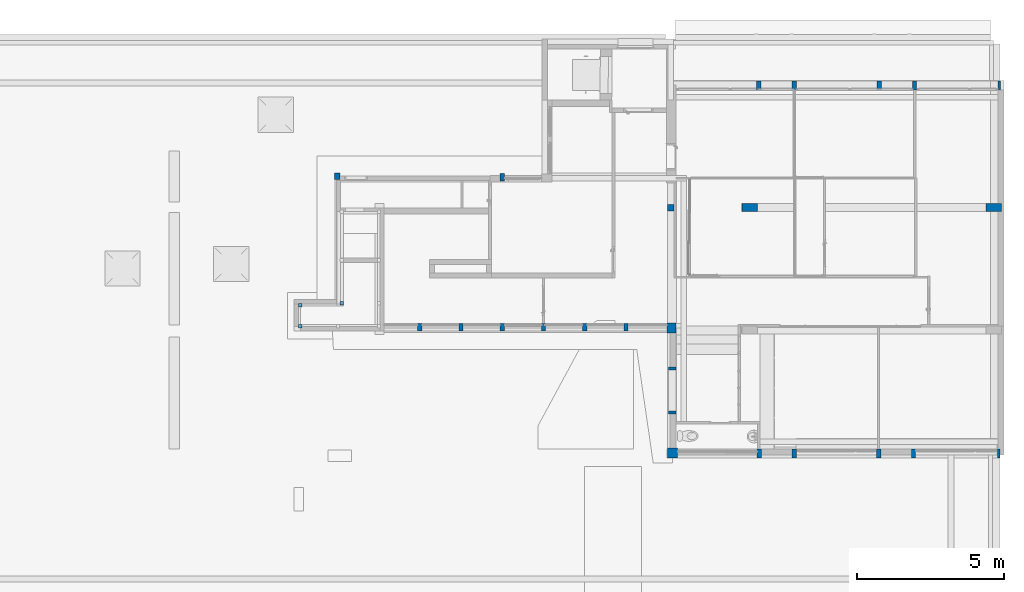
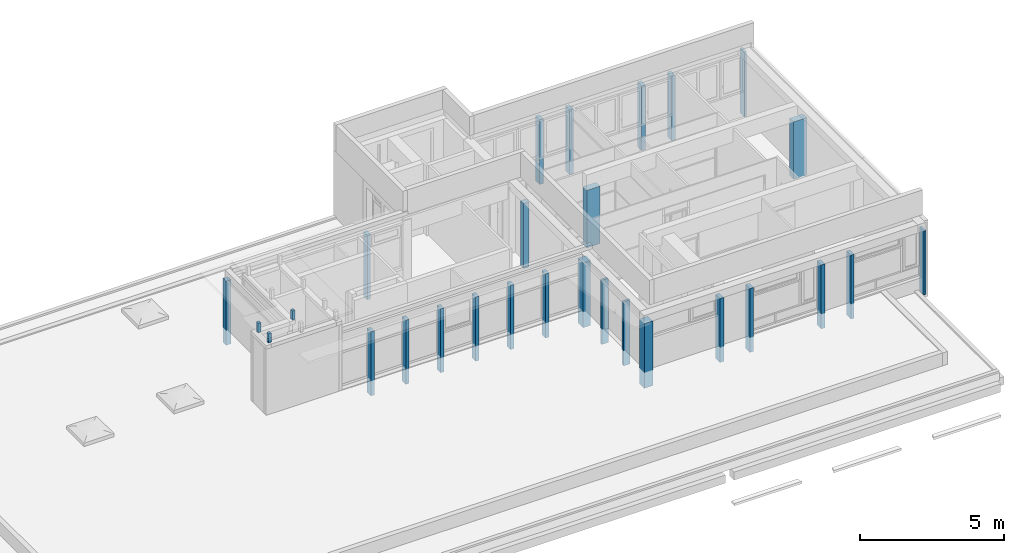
# One storey, part 1 of 49: 28 columns.
"""IFC4 building model written with IfcOpenShell, lengths in metres."""

import ifcopenshell
import ifcopenshell.guid

model = None  # the IFC model being written
_history = None  # IfcOwnerHistory: only IFC2X3 demands one
_inside = {}  # id of a spatial element -> (the spatial element, [elements in it])
_under = {}  # id of a project, library or spatial element -> (it, [spatial elements below it])
_declared = {}  # id of a project -> (the project, [libraries it declares])
_typed = {}  # id of a type object -> (the type object, [elements of that type])
_made_of = {}  # id of a material, layer set ... -> (it, [elements and type objects made of it])


def new_model(schema):
    """Start an empty IFC model of exactly this schema.

    Asked for "IFC4X3", IfcOpenShell would pick the latest addendum, in which some entities
    have other attributes; the version numbers below select the first issue.
    IFC2X3 requires an IfcOwnerHistory on every rooted entity: one is made here for all.
    """
    global model, _history
    if schema == "IFC4X3":
        model = ifcopenshell.file(schema_version=(4, 3, 0, 0))
    else:
        model = ifcopenshell.file(schema=schema)
    _inside.clear()
    _under.clear()
    _declared.clear()
    _typed.clear()
    _made_of.clear()
    _history = None
    if model.schema == "IFC2X3":
        org = make("IfcOrganization", Name="unknown")
        user = make(
            "IfcPersonAndOrganization",
            ThePerson=make("IfcPerson", FamilyName="unknown"),
            TheOrganization=org,
        )
        app = make(
            "IfcApplication",
            ApplicationDeveloper=org,
            Version="unknown",
            ApplicationFullName="unknown",
            ApplicationIdentifier="unknown",
        )
        _history = make(
            "IfcOwnerHistory",
            OwningUser=user,
            OwningApplication=app,
            ChangeAction="ADDED",
            CreationDate=0,
        )
    return model


def make(cls, **values):
    """One entity of the class cls with the attributes given. An attribute that is None is left unset."""
    return model.create_entity(
        cls, **{name: value for name, value in values.items() if value is not None}
    )


def entity(cls, *values):
    """Any entity or typed value of the class cls, its attributes in the order of the schema. None: left unset."""
    e = model.create_entity(cls)
    for i, value in enumerate(values):
        if value is not None:
            e[i] = value
    return e


def rooted(cls, **values):
    """An entity with a GlobalId (a new one), such as an element, a storey or a relation."""
    return make(cls, GlobalId=ifcopenshell.guid.new(), OwnerHistory=_history, **values)


def si_unit(unit_type, name, prefix=None):
    """IfcSIUnit, for example si_unit("LENGTHUNIT", "METRE", prefix="MILLI")."""
    return make("IfcSIUnit", UnitType=unit_type, Prefix=prefix, Name=name)


def converted_unit(unit_type, name, factor, base, dimensions=None, offset=None):
    """IfcConversionBasedUnit, such as the inch: factor (a typed value) times the base unit."""
    return make(
        "IfcConversionBasedUnit"
        if offset is None
        else "IfcConversionBasedUnitWithOffset",
        ConversionOffset=offset,
        Dimensions=None
        if dimensions is None
        else entity("IfcDimensionalExponents", *dimensions),
        UnitType=unit_type,
        Name=name,
        ConversionFactor=make(
            "IfcMeasureWithUnit", ValueComponent=factor, UnitComponent=base
        ),
    )


def derived_unit(unit_type, elements):
    """IfcDerivedUnit: a product of units, each with its exponent."""
    return make(
        "IfcDerivedUnit",
        Elements=[
            make("IfcDerivedUnitElement", Unit=unit, Exponent=power)
            for unit, power in elements
        ],
        UnitType=unit_type,
    )


def assignment(units):
    """IfcUnitAssignment: the units of a project."""
    return None if units is None else make("IfcUnitAssignment", Units=units)


def point(xyz):
    """IfcCartesianPoint."""
    return None if xyz is None else make("IfcCartesianPoint", Coordinates=xyz)


def direction(xyz):
    """IfcDirection."""
    return None if xyz is None else make("IfcDirection", DirectionRatios=xyz)


def frame(location, z_axis=None, x_axis=None):
    """IfcAxis2Placement3D, a coordinate frame: its origin and axes. An axis left out is left unset."""
    return make(
        "IfcAxis2Placement3D",
        Location=point(location),
        Axis=direction(z_axis),
        RefDirection=direction(x_axis),
    )


def origin():
    """The frame at (0, 0, 0) with its axes left unset."""
    return frame((0.0, 0.0, 0.0))


def place(relative_to, where):
    """IfcLocalPlacement: puts the frame where relative to a parent placement (None: the world)."""
    return make(
        "IfcLocalPlacement", PlacementRelTo=relative_to, RelativePlacement=where
    )


def context(
    kind, dimensions, precision=None, world=None, true_north=None, identifier=None
):
    """IfcGeometricRepresentationContext, for example the 3D "Model" context."""
    return make(
        "IfcGeometricRepresentationContext",
        ContextIdentifier=identifier,
        ContextType=kind,
        CoordinateSpaceDimension=dimensions,
        Precision=precision,
        WorldCoordinateSystem=world,
        TrueNorth=true_north,
    )


def subcontext(parent, identifier, kind, view, scale=None):
    """IfcGeometricRepresentationSubContext, for example "Body" below "Model"."""
    return make(
        "IfcGeometricRepresentationSubContext",
        ContextIdentifier=identifier,
        ContextType=kind,
        ParentContext=parent,
        TargetScale=scale,
        TargetView=view,
    )


def project(units=None, contexts=None):
    """IfcProject with its units and contexts."""
    return rooted(
        "IfcProject",
        Name="project",
        RepresentationContexts=contexts,
        UnitsInContext=assignment(units),
    )


def spatial(cls, under=None, at=None, **own):
    """A site, building, storey or space (cls), placed at a placement, below another one or the project."""
    s = rooted(cls, ObjectPlacement=at, **own)
    if under is not None:
        _under.setdefault(under.id(), (under, []))[1].append(s)
    return s


def point_list(points):
    """IfcCartesianPointList2D or 3D."""
    cls = (
        "IfcCartesianPointList2D" if len(points[0]) == 2 else "IfcCartesianPointList3D"
    )
    return make(cls, CoordList=points)


def indexed_curve(points, segments=None, self_intersect=None):
    """IfcIndexedPolyCurve: lines and arcs through numbered points (the first is 1)."""
    return make(
        "IfcIndexedPolyCurve",
        Points=point_list(points),
        Segments=segments,
        SelfIntersect=self_intersect,
    )


def outline(outer, holes=None, kind="AREA"):
    """IfcArbitraryClosedProfileDef: a profile drawn as a closed curve; with holes, ...WithVoids."""
    if holes is None:
        return make("IfcArbitraryClosedProfileDef", ProfileType=kind, OuterCurve=outer)
    return make(
        "IfcArbitraryProfileDefWithVoids",
        ProfileType=kind,
        OuterCurve=outer,
        InnerCurves=holes,
    )


def extrude(swept, where, along, depth):
    """IfcExtrudedAreaSolid: the profile swept, set in the frame where, extruded along a direction by depth."""
    return make(
        "IfcExtrudedAreaSolid",
        SweptArea=swept,
        Position=where,
        ExtrudedDirection=direction(along),
        Depth=depth,
    )


def shape(context_of_items, identifier, shape_type, items):
    """IfcShapeRepresentation: the items that make up one representation, for example the "Body"."""
    return make(
        "IfcShapeRepresentation",
        ContextOfItems=context_of_items,
        RepresentationIdentifier=identifier,
        RepresentationType=shape_type,
        Items=items,
    )


def source(mapping_origin, context_of_items, identifier, shape_type, items):
    """IfcRepresentationMap: a shape defined once, which mapped items show again and again."""
    return make(
        "IfcRepresentationMap",
        MappingOrigin=mapping_origin,
        MappedRepresentation=shape(context_of_items, identifier, shape_type, items),
    )


def transform(
    local_origin,
    x_axis=None,
    y_axis=None,
    z_axis=None,
    scale=None,
    scale2=None,
    scale3=None,
    uniform=True,
):
    """IfcCartesianTransformationOperator3D, or its non-uniform kind. x_axis, y_axis, z_axis: its Axis1, 2, 3."""
    if uniform:
        return make(
            "IfcCartesianTransformationOperator3D",
            Axis1=direction(x_axis),
            Axis2=direction(y_axis),
            LocalOrigin=point(local_origin),
            Scale=scale,
            Axis3=direction(z_axis),
        )
    return make(
        "IfcCartesianTransformationOperator3DnonUniform",
        Axis1=direction(x_axis),
        Axis2=direction(y_axis),
        LocalOrigin=point(local_origin),
        Scale=scale,
        Axis3=direction(z_axis),
        Scale2=scale2,
        Scale3=scale3,
    )


def mapped(mapping_source, mapping_target):
    """IfcMappedItem: shows the shape of a source again, moved by a transform."""
    return make(
        "IfcMappedItem", MappingSource=mapping_source, MappingTarget=mapping_target
    )


def material(Name=None, Category=None):
    """IfcMaterial."""
    return make("IfcMaterial", Name=Name, Category=Category)


def material_list(materials):
    """IfcMaterialList."""
    return make("IfcMaterialList", Materials=materials)


def made_of(thing, what):
    """Note that an element or type object is made of a material, layer set ...; save() writes the relation."""
    if what is not None:
        _made_of.setdefault(what.id(), (what, []))[1].append(thing)
    return thing


def type_object(cls, material=None, **own):
    """A type object (cls), such as IfcWallType, which elements share."""
    return made_of(rooted(cls, **own), material)


def type_shapes(of_type, sources):
    """Give a type object the sources (RepresentationMaps) that its elements show as mapped items."""
    of_type.RepresentationMaps = sources


def element(
    cls,
    number,
    at=None,
    inside=None,
    cuts=None,
    type_object=None,
    material=None,
    context=None,
    identifier="Body",
    shape_type=None,
    held_by="IfcProductDefinitionShape",
    body=None,
    shapes=None,
    **own,
):
    """One element of the class cls, such as IfcWall. Its Tag is "e" and its number.

    at: its placement. inside: the storey or other place that contains it. cuts: it is an
    opening in that element (IfcRelVoidsElement). A single representation is given by context,
    identifier, shape_type and body (its items); several are given by shapes. held_by: the class
    of the entity that holds the representations. save() writes the other relations.
    """
    e = rooted(cls, Tag="e%d" % number, ObjectPlacement=at, **own)
    if body is not None:
        shapes = [shape(context, identifier, shape_type, body)]
    if shapes is not None:
        e.Representation = make(held_by, Representations=shapes)
    if inside is not None:
        _inside.setdefault(inside.id(), (inside, []))[1].append(e)
    if cuts is not None:
        rooted(
            "IfcRelVoidsElement", RelatingBuildingElement=cuts, RelatedOpeningElement=e
        )
    if type_object is not None:
        _typed.setdefault(type_object.id(), (type_object, []))[1].append(e)
    return made_of(e, material)


def aggregate(whole, parts):
    """IfcRelAggregates: a whole, such as a stair, and the parts it consists of."""
    return rooted("IfcRelAggregates", RelatingObject=whole, RelatedObjects=parts)


def save(model, path):
    """Write the relations noted so far, then the file.

    IfcRelAggregates (storeys below a building ...), IfcRelContainedInSpatialStructure (elements
    in a storey), IfcRelDefinesByType, IfcRelAssociatesMaterial and IfcRelDeclares: one each for
    every whole, place, type object, material and project.
    """
    for whole, parts in _under.values():
        aggregate(whole, parts)
    for where, things in _inside.values():
        rooted(
            "IfcRelContainedInSpatialStructure",
            RelatedElements=things,
            RelatingStructure=where,
        )
    for kind, things in _typed.values():
        rooted("IfcRelDefinesByType", RelatedObjects=things, RelatingType=kind)
    for what, things in _made_of.values():
        rooted("IfcRelAssociatesMaterial", RelatedObjects=things, RelatingMaterial=what)
    for by, libraries in _declared.values():
        rooted("IfcRelDeclares", RelatingContext=by, RelatedDefinitions=libraries)
    model.write(path)


model = new_model("IFC4")

# Units and contexts
model_context = context("Model", 3, precision=1e-05, world=origin(), true_north=direction((6.12303176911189e-17, 1.0)))
body_context = subcontext(model_context, "Body", "Model", "MODEL_VIEW")
ifc_project = project(units=[si_unit("LENGTHUNIT", "METRE"), si_unit("AREAUNIT", "SQUARE_METRE"), si_unit("VOLUMEUNIT", "CUBIC_METRE"), converted_unit("PLANEANGLEUNIT", "DEGREE", entity("IfcRatioMeasure", 0.0174532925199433), si_unit("PLANEANGLEUNIT", "RADIAN"), dimensions=[0, 0, 0, 0, 0, 0, 0]), si_unit("MASSUNIT", "GRAM", prefix="KILO"), derived_unit("MASSDENSITYUNIT", [(si_unit("MASSUNIT", "GRAM", prefix="KILO"), 1), (si_unit("LENGTHUNIT", "METRE"), -3)]), derived_unit("MOMENTOFINERTIAUNIT", [(si_unit("LENGTHUNIT", "METRE"), 4)]), si_unit("TIMEUNIT", "SECOND"), si_unit("FREQUENCYUNIT", "HERTZ"), si_unit("THERMODYNAMICTEMPERATUREUNIT", "DEGREE_CELSIUS"), derived_unit("THERMALTRANSMITTANCEUNIT", [(si_unit("MASSUNIT", "GRAM", prefix="KILO"), 1), (si_unit("THERMODYNAMICTEMPERATUREUNIT", "KELVIN"), -1), (si_unit("TIMEUNIT", "SECOND"), -3)]), derived_unit("VOLUMETRICFLOWRATEUNIT", [(si_unit("LENGTHUNIT", "METRE"), 3), (si_unit("TIMEUNIT", "SECOND"), -1)]), si_unit("ELECTRICCURRENTUNIT", "AMPERE"), si_unit("ELECTRICVOLTAGEUNIT", "VOLT"), si_unit("POWERUNIT", "WATT"), si_unit("FORCEUNIT", "NEWTON", prefix="KILO"), si_unit("ILLUMINANCEUNIT", "LUX"), si_unit("LUMINOUSFLUXUNIT", "LUMEN"), si_unit("LUMINOUSINTENSITYUNIT", "CANDELA"), derived_unit("USERDEFINED", [(si_unit("MASSUNIT", "GRAM", prefix="KILO"), -1), (si_unit("LENGTHUNIT", "METRE"), -2), (si_unit("TIMEUNIT", "SECOND"), 3), (si_unit("LUMINOUSFLUXUNIT", "LUMEN"), 1)]), derived_unit("LINEARVELOCITYUNIT", [(si_unit("LENGTHUNIT", "METRE"), 1), (si_unit("TIMEUNIT", "SECOND"), -1)]), si_unit("PRESSUREUNIT", "PASCAL"), derived_unit("USERDEFINED", [(si_unit("LENGTHUNIT", "METRE"), -2), (si_unit("MASSUNIT", "GRAM", prefix="KILO"), 1), (si_unit("TIMEUNIT", "SECOND"), -2)]), derived_unit("LINEARFORCEUNIT", [(si_unit("MASSUNIT", "GRAM", prefix="KILO"), 1), (si_unit("LENGTHUNIT", "METRE"), 1), (si_unit("TIMEUNIT", "SECOND"), -2), (si_unit("LENGTHUNIT", "METRE"), -1)]), derived_unit("PLANARFORCEUNIT", [(si_unit("MASSUNIT", "GRAM", prefix="KILO"), 1), (si_unit("LENGTHUNIT", "METRE"), 1), (si_unit("TIMEUNIT", "SECOND"), -2), (si_unit("LENGTHUNIT", "METRE"), -2)])], contexts=[model_context])

# Site, building, storey
site_placement = place(None, origin())
site = spatial("IfcSite", under=ifc_project, at=site_placement, Name="Default", CompositionType="ELEMENT")
building_placement = place(site_placement, origin())
building = spatial("IfcBuilding", under=site, at=building_placement, Name="HOTEL CONSULAIRE BOULOGNE SUR MER", CompositionType="ELEMENT")
storey_placement = place(building_placement, frame((0.0, 0.0, 6.81974152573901)))
storey = spatial("IfcBuildingStorey", under=building, at=storey_placement, Name="Niveau 2", CompositionType="ELEMENT", Elevation=6.81974152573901)

# Columns
ifc_material_1 = material(Name="Finition Peinture - Blanc satiné", Category="Peinture")
ifc_material_2 = material(Name="<Unnamed>")
ifc_material_list_1 = material_list([ifc_material_2, ifc_material_1])
column_type_1 = type_object("IfcColumnType", Name="Poteaux porteurs 76:Poteaux porteurs 1", PredefinedType="COLUMN", material=ifc_material_list_1)
shared_shape_1 = source(origin(), body_context, "Body", "SweptSolid", [
    extrude(outline(indexed_curve([(-0.150000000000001, -0.0750000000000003), (0.149999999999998, -0.0750000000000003), (0.149999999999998, 0.0750000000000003), (-0.150000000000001, 0.0750000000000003), (-0.150000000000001, -0.0750000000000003)], self_intersect=False)), frame((14.4744341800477, -11.4864237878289, 6.78474152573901), z_axis=(0.0, 0.0, 1.0), x_axis=(0.0, -1.0, 0.0)), (0.0, 0.0, 1.0), 2.7469999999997),
])
type_shapes(column_type_1, [shared_shape_1])
column_1_placement = place(storey_placement, frame((0.0, 0.0, -6.81974152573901)))
element("IfcColumn", 1, at=column_1_placement, inside=storey, type_object=column_type_1, material=ifc_material_1, Name="Poteaux porteurs 76:Poteaux porteurs 1", ObjectType="Poteaux porteurs 76:Poteaux porteurs 1", PredefinedType="COLUMN", context=body_context, shape_type="MappedRepresentation", body=[
    mapped(shared_shape_1, transform((0.0, 0.0, 0.0), scale=1.0)),
])
ifc_material_list_2 = material_list([ifc_material_1, ifc_material_2])
column_type_2 = type_object("IfcColumnType", Name="Poteaux porteurs 73:Poteaux porteurs 1", PredefinedType="COLUMN", material=ifc_material_list_2)
shared_shape_2 = source(origin(), body_context, "Body", "SweptSolid", [
    extrude(outline(indexed_curve([(-0.150000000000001, -0.0750000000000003), (0.149999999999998, -0.0750000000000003), (0.149999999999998, 0.0750000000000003), (-0.150000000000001, 0.0750000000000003), (-0.150000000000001, -0.0750000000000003)], self_intersect=False)), frame((14.4744341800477, -11.4864237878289, 6.78474152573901), z_axis=(0.0, 0.0, 1.0), x_axis=(0.0, -1.0, 0.0)), (0.0, 0.0, 1.0), 2.7469999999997),
])
type_shapes(column_type_2, [shared_shape_2])
column_2_placement = place(storey_placement, frame((1.2, 0.0, -6.81974152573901)))
element("IfcColumn", 2, at=column_2_placement, inside=storey, type_object=column_type_2, material=ifc_material_1, Name="Poteaux porteurs 73:Poteaux porteurs 1", ObjectType="Poteaux porteurs 73:Poteaux porteurs 1", PredefinedType="COLUMN", context=body_context, shape_type="MappedRepresentation", body=[
    mapped(shared_shape_2, transform((0.0, 0.0, 0.0), scale=1.0)),
])
ifc_material_list_3 = material_list([ifc_material_2, ifc_material_1])
column_type_3 = type_object("IfcColumnType", Name="Poteaux porteurs 74:Poteaux porteurs 1", PredefinedType="COLUMN", material=ifc_material_list_3)
shared_shape_3 = source(origin(), body_context, "Body", "SweptSolid", [
    extrude(outline(indexed_curve([(-0.150000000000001, -0.0750000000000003), (0.149999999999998, -0.0750000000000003), (0.149999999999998, 0.0750000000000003), (-0.150000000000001, 0.0750000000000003), (-0.150000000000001, -0.0750000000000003)], self_intersect=False)), frame((14.4744341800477, -11.4864237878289, 6.78474152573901), z_axis=(0.0, 0.0, 1.0), x_axis=(0.0, -1.0, 0.0)), (0.0, 0.0, 1.0), 2.7469999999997),
])
type_shapes(column_type_3, [shared_shape_3])
column_3_placement = place(storey_placement, frame((4.086, 0.0, -6.81974152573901)))
element("IfcColumn", 3, at=column_3_placement, inside=storey, type_object=column_type_3, material=ifc_material_1, Name="Poteaux porteurs 74:Poteaux porteurs 1", ObjectType="Poteaux porteurs 74:Poteaux porteurs 1", PredefinedType="COLUMN", context=body_context, shape_type="MappedRepresentation", body=[
    mapped(shared_shape_3, transform((0.0, 0.0, 0.0), scale=1.0)),
])
ifc_material_list_4 = material_list([ifc_material_1, ifc_material_2])
column_type_4 = type_object("IfcColumnType", Name="Poteaux porteurs 75:Poteaux porteurs 1", PredefinedType="COLUMN", material=ifc_material_list_4)
shared_shape_4 = source(origin(), body_context, "Body", "SweptSolid", [
    extrude(outline(indexed_curve([(-0.150000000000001, -0.0750000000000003), (0.149999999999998, -0.0750000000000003), (0.149999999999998, 0.0750000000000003), (-0.150000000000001, 0.0750000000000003), (-0.150000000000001, -0.0750000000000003)], self_intersect=False)), frame((14.4744341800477, -11.4864237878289, 6.78474152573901), z_axis=(0.0, 0.0, 1.0), x_axis=(0.0, -1.0, 0.0)), (0.0, 0.0, 1.0), 2.7469999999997),
])
type_shapes(column_type_4, [shared_shape_4])
column_4_placement = place(storey_placement, frame((5.286, 0.0, -6.81974152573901)))
element("IfcColumn", 4, at=column_4_placement, inside=storey, type_object=column_type_4, material=ifc_material_1, Name="Poteaux porteurs 75:Poteaux porteurs 1", ObjectType="Poteaux porteurs 75:Poteaux porteurs 1", PredefinedType="COLUMN", context=body_context, shape_type="MappedRepresentation", body=[
    mapped(shared_shape_4, transform((0.0, 0.0, 0.0), scale=1.0)),
])
ifc_material_3 = material(Name="Maçonnerie - Béton coulé sur place", Category="Béton")
ifc_material_list_5 = material_list([ifc_material_3, ifc_material_1])
column_type_5 = type_object("IfcColumnType", Name="Poteau béton - Rectangulaire:340x340", PredefinedType="COLUMN", material=ifc_material_list_5)
shared_shape_5 = source(origin(), body_context, "Body", "SweptSolid", [
    extrude(outline(indexed_curve([(-0.17, -0.17), (0.17, -0.17), (0.17, 0.17), (-0.17, 0.17), (-0.17, -0.17)], self_intersect=False)), frame((11.5469086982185, -23.958909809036, 6.78474152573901), z_axis=(0.0, 0.0, 1.0), x_axis=(0.0, -1.0, 0.0)), (0.0, 0.0, 1.0), 2.747),
])
type_shapes(column_type_5, [shared_shape_5])
column_5_placement = place(storey_placement, frame((0.0, 0.0, -6.81974152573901)))
element("IfcColumn", 5, at=column_5_placement, inside=storey, type_object=column_type_5, material=ifc_material_1, Name="Poteau béton - Rectangulaire:340x340", ObjectType="Poteau béton - Rectangulaire:340x340", PredefinedType="COLUMN", context=body_context, shape_type="MappedRepresentation", body=[
    mapped(shared_shape_5, transform((0.0, 0.0, 0.0), scale=1.0)),
])
ifc_material_list_6 = material_list([ifc_material_2, ifc_material_1])
column_type_6 = type_object("IfcColumnType", Name="Poteaux porteurs 77:Poteaux porteurs 1", PredefinedType="COLUMN", material=ifc_material_list_6)
shared_shape_6 = source(origin(), body_context, "Body", "SweptSolid", [
    extrude(outline(indexed_curve([(-0.150000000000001, -0.0750000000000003), (0.150000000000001, -0.0750000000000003), (0.149999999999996, 0.0750000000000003), (-0.150000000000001, 0.0750000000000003), (-0.150000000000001, -0.0750000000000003)], self_intersect=False)), frame((14.4870413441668, -23.9771007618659, 6.8197415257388), z_axis=(0.0, 0.0, 1.0), x_axis=(0.0, -1.0, 0.0)), (0.0, 0.0, 1.0), 2.7119999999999),
])
type_shapes(column_type_6, [shared_shape_6])
column_6_placement = place(storey_placement, frame((0.0, 0.0, -6.81974152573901)))
element("IfcColumn", 6, at=column_6_placement, inside=storey, type_object=column_type_6, material=ifc_material_1, Name="Poteaux porteurs 77:Poteaux porteurs 1", ObjectType="Poteaux porteurs 77:Poteaux porteurs 1", PredefinedType="COLUMN", context=body_context, shape_type="MappedRepresentation", body=[
    mapped(shared_shape_6, transform((0.0, 0.0, 0.0), scale=1.0)),
])
ifc_material_list_7 = material_list([ifc_material_2, ifc_material_1])
column_type_7 = type_object("IfcColumnType", Name="Poteaux porteurs 78:Poteaux porteurs 1", PredefinedType="COLUMN", material=ifc_material_list_7)
shared_shape_7 = source(origin(), body_context, "Body", "SweptSolid", [
    extrude(outline(indexed_curve([(-0.150000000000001, -0.0750000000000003), (0.150000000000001, -0.0750000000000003), (0.149999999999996, 0.0750000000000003), (-0.150000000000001, 0.0750000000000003), (-0.150000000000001, -0.0750000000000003)], self_intersect=False)), frame((15.6870413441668, -23.9771007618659, 6.8197415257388), z_axis=(0.0, 0.0, 1.0), x_axis=(0.0, -1.0, 0.0)), (0.0, 0.0, 1.0), 2.7119999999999),
])
type_shapes(column_type_7, [shared_shape_7])
column_7_placement = place(storey_placement, frame((0.0, 0.0, -6.81974152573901)))
element("IfcColumn", 7, at=column_7_placement, inside=storey, type_object=column_type_7, material=ifc_material_1, Name="Poteaux porteurs 78:Poteaux porteurs 1", ObjectType="Poteaux porteurs 78:Poteaux porteurs 1", PredefinedType="COLUMN", context=body_context, shape_type="MappedRepresentation", body=[
    mapped(shared_shape_7, transform((0.0, 0.0, 0.0), scale=1.0)),
])
ifc_material_list_8 = material_list([ifc_material_2, ifc_material_1])
column_type_8 = type_object("IfcColumnType", Name="Poteaux porteurs 79:Poteaux porteurs 1", PredefinedType="COLUMN", material=ifc_material_list_8)
shared_shape_8 = source(origin(), body_context, "Body", "SweptSolid", [
    extrude(outline(indexed_curve([(-0.150000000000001, -0.0750000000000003), (0.150000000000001, -0.0750000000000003), (0.149999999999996, 0.0750000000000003), (-0.150000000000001, 0.0750000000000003), (-0.150000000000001, -0.0750000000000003)], self_intersect=False)), frame((18.5420413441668, -23.9771007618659, 6.8197415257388), z_axis=(0.0, 0.0, 1.0), x_axis=(0.0, -1.0, 0.0)), (0.0, 0.0, 1.0), 2.7119999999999),
])
type_shapes(column_type_8, [shared_shape_8])
column_8_placement = place(storey_placement, frame((0.0, 0.0, -6.81974152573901)))
element("IfcColumn", 8, at=column_8_placement, inside=storey, type_object=column_type_8, material=ifc_material_1, Name="Poteaux porteurs 79:Poteaux porteurs 1", ObjectType="Poteaux porteurs 79:Poteaux porteurs 1", PredefinedType="COLUMN", context=body_context, shape_type="MappedRepresentation", body=[
    mapped(shared_shape_8, transform((0.0, 0.0, 0.0), scale=1.0)),
])
ifc_material_list_9 = material_list([ifc_material_1, ifc_material_2])
column_type_9 = type_object("IfcColumnType", Name="Poteaux porteurs 80:Poteaux porteurs 1", PredefinedType="COLUMN", material=ifc_material_list_9)
shared_shape_9 = source(origin(), body_context, "Body", "SweptSolid", [
    extrude(outline(indexed_curve([(-0.150000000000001, -0.0669999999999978), (0.150000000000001, -0.0669999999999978), (0.150000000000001, 0.0670000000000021), (-0.150000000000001, 0.0670000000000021), (-0.150000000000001, -0.0669999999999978)], self_intersect=False)), frame((19.7210413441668, -23.9771007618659, 6.8197415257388), z_axis=(0.0, 0.0, 1.0), x_axis=(0.0, -1.0, 0.0)), (0.0, 0.0, 1.0), 2.7119999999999),
])
type_shapes(column_type_9, [shared_shape_9])
column_9_placement = place(storey_placement, frame((0.0, 0.0, -6.81974152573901)))
element("IfcColumn", 9, at=column_9_placement, inside=storey, type_object=column_type_9, material=ifc_material_1, Name="Poteaux porteurs 80:Poteaux porteurs 1", ObjectType="Poteaux porteurs 80:Poteaux porteurs 1", PredefinedType="COLUMN", context=body_context, shape_type="MappedRepresentation", body=[
    mapped(shared_shape_9, transform((0.0, 0.0, 0.0), scale=1.0)),
])
ifc_material_list_10 = material_list([ifc_material_2, ifc_material_1])
column_type_10 = type_object("IfcColumnType", Name="Poteaux porteurs 82:Poteaux porteurs 1", PredefinedType="COLUMN", material=ifc_material_list_10)
shared_shape_10 = source(origin(), body_context, "Body", "SweptSolid", [
    extrude(outline(indexed_curve([(-0.0494999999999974, -0.125448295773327), (0.0495000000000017, -0.125448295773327), (0.0495000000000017, 0.125448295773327), (-0.0494999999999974, 0.125448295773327), (-0.0494999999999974, -0.125448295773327)], self_intersect=False)), frame((11.5370865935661, -21.088196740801, 6.8197415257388), z_axis=(0.0, 0.0, 1.0), x_axis=(0.0, -1.0, 0.0)), (0.0, 0.0, 1.0), 2.71889394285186),
])
type_shapes(column_type_10, [shared_shape_10])
column_10_placement = place(storey_placement, frame((0.0, 0.0, -6.81974152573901)))
element("IfcColumn", 10, at=column_10_placement, inside=storey, type_object=column_type_10, material=ifc_material_1, Name="Poteaux porteurs 82:Poteaux porteurs 1", ObjectType="Poteaux porteurs 82:Poteaux porteurs 1", PredefinedType="COLUMN", context=body_context, shape_type="MappedRepresentation", body=[
    mapped(shared_shape_10, transform((0.0, 0.0, 0.0), scale=1.0)),
])
ifc_material_list_11 = material_list([ifc_material_2, ifc_material_1])
column_type_11 = type_object("IfcColumnType", Name="Poteaux porteurs 83:Poteaux porteurs 1", PredefinedType="COLUMN", material=ifc_material_list_11)
shared_shape_11 = source(origin(), body_context, "Body", "SweptSolid", [
    extrude(outline(indexed_curve([(-0.12838322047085, -0.0699999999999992), (0.12838322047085, -0.0699999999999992), (0.12838322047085, 0.0700000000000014), (-0.12838322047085, 0.0700000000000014), (-0.12838322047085, -0.0699999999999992)], self_intersect=False)), frame((9.97421154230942, -19.6932975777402, 6.8197415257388), z_axis=(0.0, 0.0, 1.0), x_axis=(0.0, -1.0, 0.0)), (0.0, 0.0, 1.0), 2.71889394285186),
])
type_shapes(column_type_11, [shared_shape_11])
column_11_placement = place(storey_placement, frame((0.0, 0.0, -6.81974152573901)))
element("IfcColumn", 11, at=column_11_placement, inside=storey, type_object=column_type_11, material=ifc_material_1, Name="Poteaux porteurs 83:Poteaux porteurs 1", ObjectType="Poteaux porteurs 83:Poteaux porteurs 1", PredefinedType="COLUMN", context=body_context, shape_type="MappedRepresentation", body=[
    mapped(shared_shape_11, transform((0.0, 0.0, 0.0), scale=1.0)),
])
ifc_material_list_12 = material_list([ifc_material_2, ifc_material_1])
column_type_12 = type_object("IfcColumnType", Name="Poteaux porteurs 84:Poteaux porteurs 1", PredefinedType="COLUMN", material=ifc_material_list_12)
shared_shape_12 = source(origin(), body_context, "Body", "SweptSolid", [
    extrude(outline(indexed_curve([(-0.12838322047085, -0.0700000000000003), (0.12838322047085, -0.0700000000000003), (0.12838322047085, 0.0700000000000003), (-0.12838322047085, 0.0700000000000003), (-0.12838322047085, -0.0700000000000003)], self_intersect=False)), frame((8.57421154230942, -19.6932975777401, 6.8197415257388), z_axis=(0.0, 0.0, 1.0), x_axis=(0.0, -1.0, 0.0)), (0.0, 0.0, 1.0), 2.71889394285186),
])
type_shapes(column_type_12, [shared_shape_12])
column_12_placement = place(storey_placement, frame((0.0, 0.0, -6.81974152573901)))
element("IfcColumn", 12, at=column_12_placement, inside=storey, type_object=column_type_12, material=ifc_material_1, Name="Poteaux porteurs 84:Poteaux porteurs 1", ObjectType="Poteaux porteurs 84:Poteaux porteurs 1", PredefinedType="COLUMN", context=body_context, shape_type="MappedRepresentation", body=[
    mapped(shared_shape_12, transform((0.0, 0.0, 0.0), scale=1.0)),
])
ifc_material_list_13 = material_list([ifc_material_2, ifc_material_1])
column_type_13 = type_object("IfcColumnType", Name="Poteaux porteurs 85:Poteaux porteurs 1", PredefinedType="COLUMN", material=ifc_material_list_13)
shared_shape_13 = source(origin(), body_context, "Body", "SweptSolid", [
    extrude(outline(indexed_curve([(-0.12838322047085, -0.0700000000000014), (0.12838322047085, -0.0700000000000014), (0.12838322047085, 0.0699999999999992), (-0.12838322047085, 0.0699999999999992), (-0.12838322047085, -0.0700000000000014)], self_intersect=False)), frame((7.17421154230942, -19.6932975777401, 6.8197415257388), z_axis=(0.0, 0.0, 1.0), x_axis=(0.0, -1.0, 0.0)), (0.0, 0.0, 1.0), 2.71889394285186),
])
type_shapes(column_type_13, [shared_shape_13])
column_13_placement = place(storey_placement, frame((0.0, 0.0, -6.81974152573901)))
element("IfcColumn", 13, at=column_13_placement, inside=storey, type_object=column_type_13, material=ifc_material_1, Name="Poteaux porteurs 85:Poteaux porteurs 1", ObjectType="Poteaux porteurs 85:Poteaux porteurs 1", PredefinedType="COLUMN", context=body_context, shape_type="MappedRepresentation", body=[
    mapped(shared_shape_13, transform((0.0, 0.0, 0.0), scale=1.0)),
])
ifc_material_list_14 = material_list([ifc_material_2, ifc_material_1])
column_type_14 = type_object("IfcColumnType", Name="Poteaux porteurs 86:Poteaux porteurs 1", PredefinedType="COLUMN", material=ifc_material_list_14)
shared_shape_14 = source(origin(), body_context, "Body", "SweptSolid", [
    extrude(outline(indexed_curve([(-0.12838322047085, -0.0700000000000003), (0.12838322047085, -0.0700000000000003), (0.12838322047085, 0.0700000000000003), (-0.12838322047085, 0.0700000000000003), (-0.12838322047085, -0.0700000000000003)], self_intersect=False)), frame((5.77421154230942, -19.6932975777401, 6.8197415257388), z_axis=(0.0, 0.0, 1.0), x_axis=(0.0, -1.0, 0.0)), (0.0, 0.0, 1.0), 2.7119999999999),
])
type_shapes(column_type_14, [shared_shape_14])
column_14_placement = place(storey_placement, frame((0.0, 0.0, -6.81974152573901)))
element("IfcColumn", 14, at=column_14_placement, inside=storey, type_object=column_type_14, material=ifc_material_1, Name="Poteaux porteurs 86:Poteaux porteurs 1", ObjectType="Poteaux porteurs 86:Poteaux porteurs 1", PredefinedType="COLUMN", context=body_context, shape_type="MappedRepresentation", body=[
    mapped(shared_shape_14, transform((0.0, 0.0, 0.0), scale=1.0)),
])
ifc_material_list_15 = material_list([ifc_material_1, ifc_material_2])
column_type_15 = type_object("IfcColumnType", Name="Poteaux porteurs 87:Poteaux porteurs 1", PredefinedType="COLUMN", material=ifc_material_list_15)
shared_shape_15 = source(origin(), body_context, "Body", "SweptSolid", [
    extrude(outline(indexed_curve([(-0.12838322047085, -0.0700000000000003), (0.12838322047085, -0.0700000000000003), (0.12838322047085, 0.0700000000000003), (-0.12838322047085, 0.0700000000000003), (-0.12838322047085, -0.0700000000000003)], self_intersect=False)), frame((4.37421154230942, -19.6932975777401, 6.8197415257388), z_axis=(0.0, 0.0, 1.0), x_axis=(0.0, -1.0, 0.0)), (0.0, 0.0, 1.0), 2.71889394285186),
])
type_shapes(column_type_15, [shared_shape_15])
column_15_placement = place(storey_placement, frame((0.0, 0.0, -6.81974152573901)))
element("IfcColumn", 15, at=column_15_placement, inside=storey, type_object=column_type_15, material=ifc_material_1, Name="Poteaux porteurs 87:Poteaux porteurs 1", ObjectType="Poteaux porteurs 87:Poteaux porteurs 1", PredefinedType="COLUMN", context=body_context, shape_type="MappedRepresentation", body=[
    mapped(shared_shape_15, transform((0.0, 0.0, 0.0), scale=1.0)),
])
ifc_material_4 = material(Name="Béton, coulé sur place", Category="Béton")
ifc_material_list_16 = material_list([ifc_material_2, ifc_material_1, ifc_material_4])
column_type_16 = type_object("IfcColumnType", Name="Poteaux porteurs 88:Poteaux porteurs 1", PredefinedType="COLUMN", material=ifc_material_list_16)
shared_shape_16 = source(origin(), body_context, "Body", "SweptSolid", [
    extrude(outline(indexed_curve([(-0.12838322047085, -0.0700000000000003), (0.12838322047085, -0.0700000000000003), (0.12838322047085, 0.0700000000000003), (-0.12838322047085, 0.0700000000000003), (-0.12838322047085, -0.0700000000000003)], self_intersect=False)), frame((2.97421154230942, -19.6932975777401, 6.8197415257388), z_axis=(0.0, 0.0, 1.0), x_axis=(0.0, -1.0, 0.0)), (0.0, 0.0, 1.0), 2.71889394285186),
])
type_shapes(column_type_16, [shared_shape_16])
column_16_placement = place(storey_placement, frame((0.0, 0.0, -6.81974152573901)))
element("IfcColumn", 16, at=column_16_placement, inside=storey, type_object=column_type_16, material=ifc_material_4, Name="Poteaux porteurs 88:Poteaux porteurs 1", ObjectType="Poteaux porteurs 88:Poteaux porteurs 1", PredefinedType="COLUMN", context=body_context, shape_type="MappedRepresentation", body=[
    mapped(shared_shape_16, transform((0.0, 0.0, 0.0), scale=1.0)),
])
ifc_material_list_17 = material_list([ifc_material_2, ifc_material_1])
column_type_17 = type_object("IfcColumnType", Name="Poteaux porteurs 89:Poteaux porteurs 1", PredefinedType="COLUMN", material=ifc_material_list_17)
shared_shape_17 = source(origin(), body_context, "Body", "SweptSolid", [
    extrude(outline(indexed_curve([(-0.150000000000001, -0.0424473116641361), (0.150000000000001, -0.0424473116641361), (0.150000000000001, 0.0424473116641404), (-0.150000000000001, 0.0424473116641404), (-0.150000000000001, -0.0424473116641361)], self_intersect=False)), frame((22.6254886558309, -23.9771007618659, 6.8197415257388), z_axis=(0.0, 0.0, 1.0), x_axis=(0.0, -1.0, 0.0)), (0.0, 0.0, 1.0), 2.7119999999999),
])
type_shapes(column_type_17, [shared_shape_17])
column_17_placement = place(storey_placement, frame((0.0, 0.0, -6.81974152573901)))
element("IfcColumn", 17, at=column_17_placement, inside=storey, type_object=column_type_17, material=ifc_material_1, Name="Poteaux porteurs 89:Poteaux porteurs 1", ObjectType="Poteaux porteurs 89:Poteaux porteurs 1", PredefinedType="COLUMN", context=body_context, shape_type="MappedRepresentation", body=[
    mapped(shared_shape_17, transform((0.0, 0.0, 0.0), scale=1.0)),
])
column_type_18 = type_object("IfcColumnType", Name="Poteau béton - Rectangulaire:220x220", PredefinedType="COLUMN", material=ifc_material_3)
shared_shape_18 = source(origin(), body_context, "Body", "SweptSolid", [
    extrude(outline(indexed_curve([(-0.110000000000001, -0.110000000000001), (0.109999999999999, -0.110000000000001), (0.110000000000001, 0.109999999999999), (-0.109999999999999, 0.109999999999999), (-0.110000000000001, -0.110000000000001)], self_intersect=False)), frame((11.4909585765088, -15.642909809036, 6.78474152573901), z_axis=(0.0, 0.0, 1.0), x_axis=(0.0, -1.0, 0.0)), (0.0, 0.0, 1.0), 2.747),
])
type_shapes(column_type_18, [shared_shape_18])
column_18_placement = place(storey_placement, frame((0.0, 0.0, -6.81974152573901)))
element("IfcColumn", 18, at=column_18_placement, inside=storey, type_object=column_type_18, material=ifc_material_3, Name="Poteau béton - Rectangulaire:220x220", ObjectType="Poteau béton - Rectangulaire:220x220", PredefinedType="COLUMN", context=body_context, shape_type="MappedRepresentation", body=[
    mapped(shared_shape_18, transform((0.0, 0.0, 0.0), scale=1.0)),
])
column_type_19 = type_object("IfcColumnType", Name="Poteau béton - Rectangulaire:270x530", PredefinedType="COLUMN", material=ifc_material_3)
shared_shape_19 = source(origin(), body_context, "Body", "SweptSolid", [
    extrude(outline(indexed_curve([(-0.135, -0.265), (0.135, -0.265), (0.135, 0.265), (-0.135, 0.265), (-0.135, -0.265)], self_intersect=False)), frame((14.1672130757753, -15.632909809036, 6.78474152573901), z_axis=(0.0, 0.0, 1.0), x_axis=(0.0, -1.0, 0.0)), (0.0, 0.0, 1.0), 2.437),
])
type_shapes(column_type_19, [shared_shape_19])
column_19_placement = place(storey_placement, frame((0.0, 0.0, -6.81974152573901)))
element("IfcColumn", 19, at=column_19_placement, inside=storey, type_object=column_type_19, material=ifc_material_3, Name="Poteau béton - Rectangulaire:270x530", ObjectType="Poteau béton - Rectangulaire:270x530", PredefinedType="COLUMN", context=body_context, shape_type="MappedRepresentation", body=[
    mapped(shared_shape_19, transform((0.0, 0.0, 0.0), scale=1.0)),
])
column_type_20 = type_object("IfcColumnType", Name="Poteau béton - Rectangulaire:270x530", PredefinedType="COLUMN", material=ifc_material_3)
shared_shape_20 = source(origin(), body_context, "Body", "SweptSolid", [
    extrude(outline(indexed_curve([(-0.135, -0.265), (0.135, -0.265), (0.135, 0.265), (-0.135, 0.265), (-0.135, -0.265)], self_intersect=False)), frame((22.450935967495, -15.632909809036, 6.78474152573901), z_axis=(0.0, 0.0, 1.0), x_axis=(0.0, -1.0, 0.0)), (0.0, 0.0, 1.0), 2.437),
])
type_shapes(column_type_20, [shared_shape_20])
column_20_placement = place(storey_placement, frame((0.0, 0.0, -6.81974152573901)))
element("IfcColumn", 20, at=column_20_placement, inside=storey, type_object=column_type_20, material=ifc_material_3, Name="Poteau béton - Rectangulaire:270x530", ObjectType="Poteau béton - Rectangulaire:270x530", PredefinedType="COLUMN", context=body_context, shape_type="MappedRepresentation", body=[
    mapped(shared_shape_20, transform((0.0, 0.0, 0.0), scale=1.0)),
])
ifc_material_list_18 = material_list([ifc_material_1, ifc_material_2])
column_type_21 = type_object("IfcColumnType", Name="Poteaux porteurs 90:Poteaux porteurs 1", PredefinedType="COLUMN", material=ifc_material_list_18)
shared_shape_21 = source(origin(), body_context, "Body", "SweptSolid", [
    extrude(outline(indexed_curve([(-0.149999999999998, -0.0439999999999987), (0.150000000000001, -0.0439999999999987), (0.150000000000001, 0.0439999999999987), (-0.149999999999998, 0.0439999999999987), (-0.149999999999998, -0.0439999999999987)], self_intersect=False)), frame((22.6419359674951, -11.4864237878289, 6.78474152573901), z_axis=(0.0, 0.0, 1.0), x_axis=(0.0, -1.0, 0.0)), (0.0, 0.0, 1.0), 2.7469999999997),
])
type_shapes(column_type_21, [shared_shape_21])
column_21_placement = place(storey_placement, frame((0.0, 0.0, -6.81974152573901)))
element("IfcColumn", 21, at=column_21_placement, inside=storey, type_object=column_type_21, material=ifc_material_1, Name="Poteaux porteurs 90:Poteaux porteurs 1", ObjectType="Poteaux porteurs 90:Poteaux porteurs 1", PredefinedType="COLUMN", context=body_context, shape_type="MappedRepresentation", body=[
    mapped(shared_shape_21, transform((0.0, 0.0, 0.0), scale=1.0)),
])
ifc_material_list_19 = material_list([ifc_material_1, ifc_material_2])
column_type_22 = type_object("IfcColumnType", Name="Poteaux porteurs 81:Poteaux porteurs 1", PredefinedType="COLUMN", material=ifc_material_list_19)
shared_shape_22 = source(origin(), body_context, "Body", "SweptSolid", [
    extrude(outline(indexed_curve([(-0.0495000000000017, -0.125448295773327), (0.0494999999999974, -0.125448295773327), (0.0494999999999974, 0.125448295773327), (-0.0495000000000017, 0.125448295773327), (-0.0495000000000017, -0.125448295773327)], self_intersect=False)), frame((11.5370865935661, -22.587196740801, 6.8197415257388), z_axis=(0.0, 0.0, 1.0), x_axis=(0.0, -1.0, 0.0)), (0.0, 0.0, 1.0), 2.71889394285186),
])
type_shapes(column_type_22, [shared_shape_22])
column_22_placement = place(storey_placement, frame((0.0, 0.0, -6.81974152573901)))
element("IfcColumn", 22, at=column_22_placement, inside=storey, type_object=column_type_22, material=ifc_material_1, Name="Poteaux porteurs 81:Poteaux porteurs 1", ObjectType="Poteaux porteurs 81:Poteaux porteurs 1", PredefinedType="COLUMN", context=body_context, shape_type="MappedRepresentation", body=[
    mapped(shared_shape_22, transform((0.0, 0.0, 0.0), scale=1.0)),
])
ifc_material_list_20 = material_list([ifc_material_3, ifc_material_1])
column_type_23 = type_object("IfcColumnType", Name="Poteau béton - Rectangulaire:300x350", PredefinedType="COLUMN", material=ifc_material_list_20)
shared_shape_23 = source(origin(), body_context, "Body", "SweptSolid", [
    extrude(outline(indexed_curve([(-0.174999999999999, -0.150000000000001), (0.174999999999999, -0.150000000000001), (0.174999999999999, 0.149999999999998), (-0.174999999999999, 0.150000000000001), (-0.174999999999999, -0.150000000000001)], self_intersect=False)), frame((11.5219435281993, -19.712909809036, 6.78474152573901), z_axis=(0.0, 0.0, 1.0), x_axis=(0.0, -1.0, 0.0)), (0.0, 0.0, 1.0), 2.747),
])
type_shapes(column_type_23, [shared_shape_23])
column_23_placement = place(storey_placement, frame((0.0, 0.0, -6.81974152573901)))
element("IfcColumn", 23, at=column_23_placement, inside=storey, type_object=column_type_23, material=ifc_material_1, Name="Poteau béton - Rectangulaire:300x350", ObjectType="Poteau béton - Rectangulaire:300x350", PredefinedType="COLUMN", context=body_context, shape_type="MappedRepresentation", body=[
    mapped(shared_shape_23, transform((0.0, 0.0, 0.0), scale=1.0)),
])
ifc_material_5 = material(Name="Acier", Category="Métal")
column_type_24 = type_object("IfcColumnType", Name="poteau4:poteau", PredefinedType="COLUMN", material=ifc_material_5)
shared_shape_24 = source(origin(), body_context, "Body", "SweptSolid", [
    extrude(outline(indexed_curve([(-0.0600000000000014, -0.0550000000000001), (0.0599999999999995, -0.0550000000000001), (0.0599999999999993, 0.055), (-0.0600000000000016, 0.055), (-0.0600000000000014, -0.0550000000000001)], self_intersect=False)), frame((0.196635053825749, -15.6952420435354, 10.411641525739), z_axis=(0.0, 0.0, 1.0), x_axis=(0.0, -1.0, 0.0)), (0.0, 0.0, 1.0), 0.393099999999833),
])
type_shapes(column_type_24, [shared_shape_24])
column_24_placement = place(storey_placement, frame((0.129999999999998, -3.18465993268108, -6.81974152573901)))
element("IfcColumn", 24, at=column_24_placement, inside=storey, type_object=column_type_24, material=ifc_material_5, Name="poteau4:poteau", ObjectType="poteau4:poteau", PredefinedType="COLUMN", context=body_context, shape_type="MappedRepresentation", body=[
    mapped(shared_shape_24, transform((0.0, 0.0, 0.0), scale=1.0)),
])
column_type_25 = type_object("IfcColumnType", Name="poteau7:poteau", PredefinedType="COLUMN", material=ifc_material_5)
shared_shape_25 = source(origin(), body_context, "Body", "SweptSolid", [
    extrude(outline(indexed_curve([(-0.0600000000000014, -0.0550000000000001), (0.0599999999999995, -0.0550000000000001), (0.0599999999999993, 0.055), (-0.0600000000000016, 0.055), (-0.0600000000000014, -0.0550000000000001)], self_intersect=False)), frame((0.196635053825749, -15.6952420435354, 10.411641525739), z_axis=(0.0, 0.0, 1.0), x_axis=(0.0, -1.0, 0.0)), (0.0, 0.0, 1.0), 0.393099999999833),
])
type_shapes(column_type_25, [shared_shape_25])
column_25_placement = place(storey_placement, frame((-1.27363956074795, -3.96178381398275, -6.81974152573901)))
element("IfcColumn", 25, at=column_25_placement, inside=storey, type_object=column_type_25, material=ifc_material_5, Name="poteau7:poteau", ObjectType="poteau7:poteau", PredefinedType="COLUMN", context=body_context, shape_type="MappedRepresentation", body=[
    mapped(shared_shape_25, transform((0.0, 0.0, 0.0), scale=1.0)),
])
column_type_26 = type_object("IfcColumnType", Name="poteau6:poteau", PredefinedType="COLUMN", material=ifc_material_5)
shared_shape_26 = source(origin(), body_context, "Body", "SweptSolid", [
    extrude(outline(indexed_curve([(-0.0600000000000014, -0.0550000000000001), (0.0599999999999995, -0.0550000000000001), (0.0599999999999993, 0.055), (-0.0600000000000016, 0.055), (-0.0600000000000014, -0.0550000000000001)], self_intersect=False)), frame((0.196635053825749, -15.6952420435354, 10.411641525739), z_axis=(0.0, 0.0, 1.0), x_axis=(0.0, -1.0, 0.0)), (0.0, 0.0, 1.0), 0.393099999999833),
])
type_shapes(column_type_26, [shared_shape_26])
column_26_placement = place(storey_placement, frame((-1.27363956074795, -3.2415186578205, -6.81974152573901)))
element("IfcColumn", 26, at=column_26_placement, inside=storey, type_object=column_type_26, material=ifc_material_5, Name="poteau6:poteau", ObjectType="poteau6:poteau", PredefinedType="COLUMN", context=body_context, shape_type="MappedRepresentation", body=[
    mapped(shared_shape_26, transform((0.0, 0.0, 0.0), scale=1.0)),
])
ifc_material_list_21 = material_list([ifc_material_1, ifc_material_2])
column_type_27 = type_object("IfcColumnType", Name="Poteaux porteurs 91:Poteaux porteurs 1", PredefinedType="COLUMN", material=ifc_material_list_21)
shared_shape_27 = source(origin(), body_context, "Body", "SweptSolid", [
    extrude(outline(indexed_curve([(-0.12838322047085, -0.0700000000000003), (0.12838322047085, -0.0700000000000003), (0.12838322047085, 0.0700000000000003), (-0.12838322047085, 0.0700000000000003), (-0.12838322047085, -0.0700000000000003)], self_intersect=False)), frame((5.77421154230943, -14.5960762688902, 6.8197415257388), z_axis=(0.0, 0.0, 1.0), x_axis=(0.0, -1.0, 0.0)), (0.0, 0.0, 1.0), 2.7400000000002),
])
type_shapes(column_type_27, [shared_shape_27])
column_27_placement = place(storey_placement, frame((0.0, 0.0, -6.81974152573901)))
element("IfcColumn", 27, at=column_27_placement, inside=storey, type_object=column_type_27, material=ifc_material_1, Name="Poteaux porteurs 91:Poteaux porteurs 1", ObjectType="Poteaux porteurs 91:Poteaux porteurs 1", PredefinedType="COLUMN", context=body_context, shape_type="MappedRepresentation", body=[
    mapped(shared_shape_27, transform((0.0, 0.0, 0.0), scale=1.0)),
])
column_type_28 = type_object("IfcColumnType", Name="Poteau béton - Rectangulaire:190x210", PredefinedType="COLUMN", material=ifc_material_3)
shared_shape_28 = source(origin(), body_context, "Body", "SweptSolid", [
    extrude(outline(indexed_curve([(-0.105, -0.095), (0.105, -0.095), (0.105, 0.095), (-0.105, 0.095), (-0.105, -0.095)], self_intersect=False)), frame((0.179481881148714, -14.563818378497, 6.83174152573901), z_axis=(0.0, 0.0, 1.0), x_axis=(0.0, -1.0, 0.0)), (0.0, 0.0, 1.0), 2.718),
])
type_shapes(column_type_28, [shared_shape_28])
column_28_placement = place(storey_placement, frame((0.0, 0.0, -6.81974152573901)))
element("IfcColumn", 28, at=column_28_placement, inside=storey, type_object=column_type_28, material=ifc_material_3, Name="Poteau béton - Rectangulaire:190x210", ObjectType="Poteau béton - Rectangulaire:190x210", PredefinedType="COLUMN", context=body_context, shape_type="MappedRepresentation", body=[
    mapped(shared_shape_28, transform((0.0, 0.0, 0.0), scale=1.0)),
])

save(model, "model.ifc")
